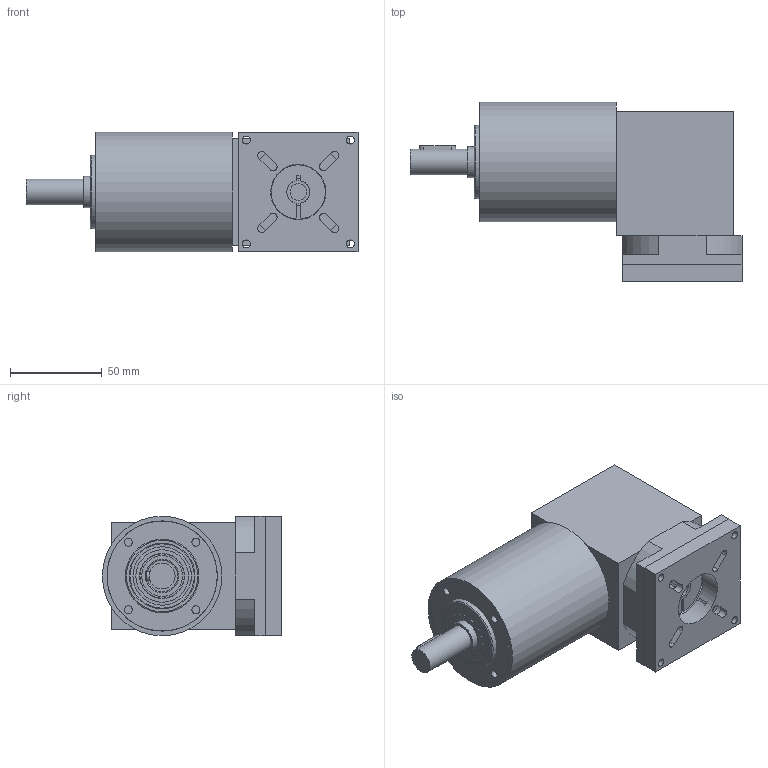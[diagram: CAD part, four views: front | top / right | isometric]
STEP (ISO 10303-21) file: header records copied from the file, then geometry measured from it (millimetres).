
FILE_DESCRIPTION(/* description */ (''),/* implementation_level */ '2;1');
FILE_NAME(/* name */ 'E00018064184TR010409093508_step203.stp',/* time_stamp */ '2009-04-01T09:36:21+02:00',/* author */ (''),/* organization */ (''),/* preprocessor_version */ 'ST-DEVELOPER v11',/* originating_system */ 'UGS - NX 5.0',/* authorisation */ '');
FILE_SCHEMA (('CONFIG_CONTROL_DESIGN'));
Length unit declared in the file: millimetre
Products named in the file (1): E00018064184TR010409093508_M
Bounding box: 180.65 x 97.5 x 65 mm (x, y, z)
Volume: 689292.9 mm3; surface area: 116045 mm2
Topology: 15 solids, 15 shells, 213 faces, 499 edges, 325 vertices
Faces by surface type: plane 91, cylinder 86, cone 26, torus 10
Full cylindrical faces by diameter (mm): 3.432 x9, 4.351 x8, 4.5 x1, 5.5 x4, 7.5 x1, 9 x1, 9.75 x1, 12.5 x1, 14 x1, 15 x1, 17 x2, 22.2 x2, 24.5 x2, 30 x1, 32.9 x2, 35 x4, 35.5 x1, 40 x1, 43 x2, 50 x2, 55 x1, 57.4 x1, 59.85 x1, 60 x2, 65 x1
Entity records: 5671 total; most frequent: DIRECTION 999, CARTESIAN_POINT 999, ORIENTED_EDGE 758, AXIS2_PLACEMENT_3D 410, EDGE_CURVE 379, EDGE_LOOP 349, VERTEX_POINT 302, FACE_BOUND 269
